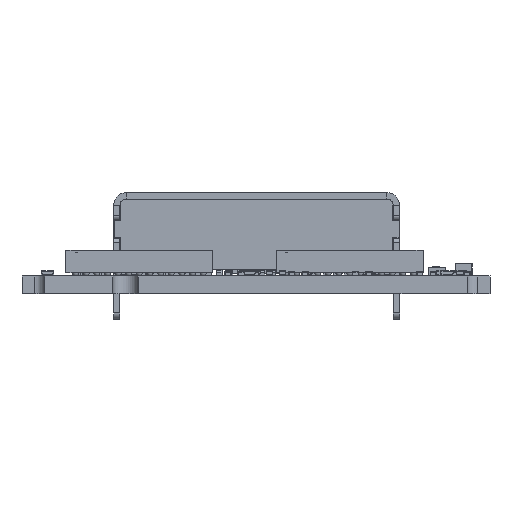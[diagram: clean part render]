
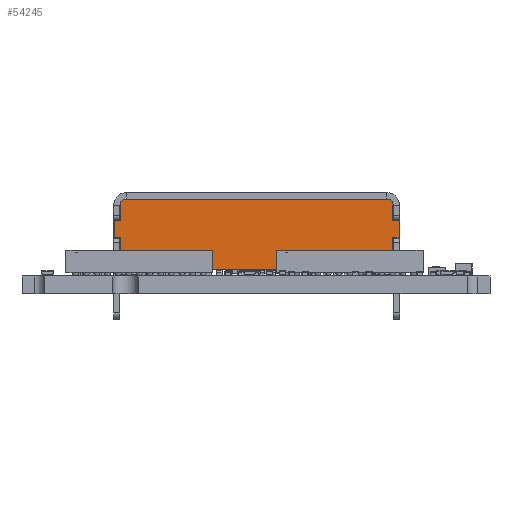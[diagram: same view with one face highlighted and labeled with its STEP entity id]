
A CAD part, front view. The second image highlights one B-rep face of the part: STEP entity #54245.
In plain terms, the highlighted planar face has unit normal (0, -1, 0) as drawn and (0, 0, -1) by its records, which use the part's own axes.
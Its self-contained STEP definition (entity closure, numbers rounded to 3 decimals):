
#34931 = VERTEX_POINT('',#34932);
#34932 = CARTESIAN_POINT('',(6.7,-0.4,-4.7));
#34938 = EDGE_CURVE('',#34939,#34931,#34941,.T.);
#34939 = VERTEX_POINT('',#34940);
#34940 = CARTESIAN_POINT('',(6.7,0.4,-4.7));
#34941 = LINE('',#34942,#34943);
#34942 = CARTESIAN_POINT('',(6.7,0.4,-4.7));
#34943 = VECTOR('',#34944,1.);
#34944 = DIRECTION('',(0.,-1.,0.));
#34969 = EDGE_CURVE('',#34970,#34939,#34972,.T.);
#34970 = VERTEX_POINT('',#34971);
#34971 = CARTESIAN_POINT('',(6.4,0.4,-4.7));
#34972 = LINE('',#34973,#34974);
#34973 = CARTESIAN_POINT('',(6.4,0.4,-4.7));
#34974 = VECTOR('',#34975,1.);
#34975 = DIRECTION('',(1.,0.,0.));
#35072 = VERTEX_POINT('',#35073);
#35073 = CARTESIAN_POINT('',(6.4,-0.4,-4.7));
#35079 = EDGE_CURVE('',#34931,#35072,#35080,.T.);
#35080 = LINE('',#35081,#35082);
#35081 = CARTESIAN_POINT('',(6.7,-0.4,-4.7));
#35082 = VECTOR('',#35083,1.);
#35083 = DIRECTION('',(-1.,0.,0.));
#35138 = VERTEX_POINT('',#35139);
#35139 = CARTESIAN_POINT('',(-6.4,0.4,-4.7));
#35145 = EDGE_CURVE('',#35138,#35146,#35148,.T.);
#35146 = VERTEX_POINT('',#35147);
#35147 = CARTESIAN_POINT('',(-6.7,0.4,-4.7));
#35148 = LINE('',#35149,#35150);
#35149 = CARTESIAN_POINT('',(-6.4,0.4,-4.7));
#35150 = VECTOR('',#35151,1.);
#35151 = DIRECTION('',(-1.,0.,0.));
#35198 = EDGE_CURVE('',#35146,#35199,#35201,.T.);
#35199 = VERTEX_POINT('',#35200);
#35200 = CARTESIAN_POINT('',(-6.7,-0.4,-4.7));
#35201 = LINE('',#35202,#35203);
#35202 = CARTESIAN_POINT('',(-6.7,0.4,-4.7));
#35203 = VECTOR('',#35204,1.);
#35204 = DIRECTION('',(0.,-1.,0.));
#35255 = EDGE_CURVE('',#35199,#35256,#35258,.T.);
#35256 = VERTEX_POINT('',#35257);
#35257 = CARTESIAN_POINT('',(-6.4,-0.4,-4.7));
#35258 = LINE('',#35259,#35260);
#35259 = CARTESIAN_POINT('',(-6.7,-0.4,-4.7));
#35260 = VECTOR('',#35261,1.);
#35261 = DIRECTION('',(1.,0.,0.));
#50111 = VERTEX_POINT('',#50112);
#50112 = CARTESIAN_POINT('',(6.4,-1.885,-4.7));
#50149 = VERTEX_POINT('',#50150);
#50150 = CARTESIAN_POINT('',(-6.4,-1.885,-4.7));
#50156 = EDGE_CURVE('',#50149,#50111,#50157,.T.);
#50157 = LINE('',#50158,#50159);
#50158 = CARTESIAN_POINT('',(-6.4,-1.885,-4.7));
#50159 = VECTOR('',#50160,1.);
#50160 = DIRECTION('',(1.,0.,0.));
#52635 = EDGE_CURVE('',#35138,#52636,#52638,.T.);
#52636 = VERTEX_POINT('',#52637);
#52637 = CARTESIAN_POINT('',(-6.4,1.235,-4.7));
#52638 = LINE('',#52639,#52640);
#52639 = CARTESIAN_POINT('',(-6.4,0.4,-4.7));
#52640 = VECTOR('',#52641,1.);
#52641 = DIRECTION('',(0.,1.,0.));
#52648 = EDGE_CURVE('',#50149,#35256,#52649,.T.);
#52649 = LINE('',#52650,#52651);
#52650 = CARTESIAN_POINT('',(-6.4,-1.885,-4.7));
#52651 = VECTOR('',#52652,1.);
#52652 = DIRECTION('',(0.,1.,0.));
#54209 = EDGE_CURVE('',#54210,#54212,#54214,.T.);
#54210 = VERTEX_POINT('',#54211);
#54211 = CARTESIAN_POINT('',(-6.219,1.4,-4.7));
#54212 = VERTEX_POINT('',#54213);
#54213 = CARTESIAN_POINT('',(6.219,1.4,-4.7));
#54214 = LINE('',#54215,#54216);
#54215 = CARTESIAN_POINT('',(-6.219,1.4,-4.7));
#54216 = VECTOR('',#54217,1.);
#54217 = DIRECTION('',(1.,0.,0.));
#54245 = ADVANCED_FACE('',(#54246),#54286,.F.);
#54246 = FACE_BOUND('',#54247,.T.);
#54247 = EDGE_LOOP('',(#54248,#54256,#54257,#54258,#54259,#54265,#54266,
    #54267,#54268,#54269,#54270,#54271,#54278,#54279));
#54248 = ORIENTED_EDGE('',*,*,#54249,.T.);
#54249 = EDGE_CURVE('',#54250,#34970,#54252,.T.);
#54250 = VERTEX_POINT('',#54251);
#54251 = CARTESIAN_POINT('',(6.4,1.235,-4.7));
#54252 = LINE('',#54253,#54254);
#54253 = CARTESIAN_POINT('',(6.4,1.235,-4.7));
#54254 = VECTOR('',#54255,1.);
#54255 = DIRECTION('',(0.,-1.,0.));
#54256 = ORIENTED_EDGE('',*,*,#34969,.T.);
#54257 = ORIENTED_EDGE('',*,*,#34938,.T.);
#54258 = ORIENTED_EDGE('',*,*,#35079,.T.);
#54259 = ORIENTED_EDGE('',*,*,#54260,.T.);
#54260 = EDGE_CURVE('',#35072,#50111,#54261,.T.);
#54261 = LINE('',#54262,#54263);
#54262 = CARTESIAN_POINT('',(6.4,-0.4,-4.7));
#54263 = VECTOR('',#54264,1.);
#54264 = DIRECTION('',(0.,-1.,0.));
#54265 = ORIENTED_EDGE('',*,*,#50156,.F.);
#54266 = ORIENTED_EDGE('',*,*,#52648,.T.);
#54267 = ORIENTED_EDGE('',*,*,#35255,.F.);
#54268 = ORIENTED_EDGE('',*,*,#35198,.F.);
#54269 = ORIENTED_EDGE('',*,*,#35145,.F.);
#54270 = ORIENTED_EDGE('',*,*,#52635,.T.);
#54271 = ORIENTED_EDGE('',*,*,#54272,.F.);
#54272 = EDGE_CURVE('',#54210,#52636,#54273,.T.);
#54273 = CIRCLE('',#54274,0.3);
#54274 = AXIS2_PLACEMENT_3D('',#54275,#54276,#54277);
#54275 = CARTESIAN_POINT('',(-6.125,1.115,-4.7));
#54276 = DIRECTION('',(0.,0.,1.));
#54277 = DIRECTION('',(-0.312,0.95,0.));
#54278 = ORIENTED_EDGE('',*,*,#54209,.T.);
#54279 = ORIENTED_EDGE('',*,*,#54280,.F.);
#54280 = EDGE_CURVE('',#54250,#54212,#54281,.T.);
#54281 = CIRCLE('',#54282,0.3);
#54282 = AXIS2_PLACEMENT_3D('',#54283,#54284,#54285);
#54283 = CARTESIAN_POINT('',(6.125,1.115,-4.7));
#54284 = DIRECTION('',(0.,0.,1.));
#54285 = DIRECTION('',(0.917,0.4,-0.));
#54286 = PLANE('',#54287);
#54287 = AXIS2_PLACEMENT_3D('',#54288,#54289,#54290);
#54288 = CARTESIAN_POINT('',(0.,-0.243,-4.7));
#54289 = DIRECTION('',(0.,0.,1.));
#54290 = DIRECTION('',(1.,0.,-0.));
